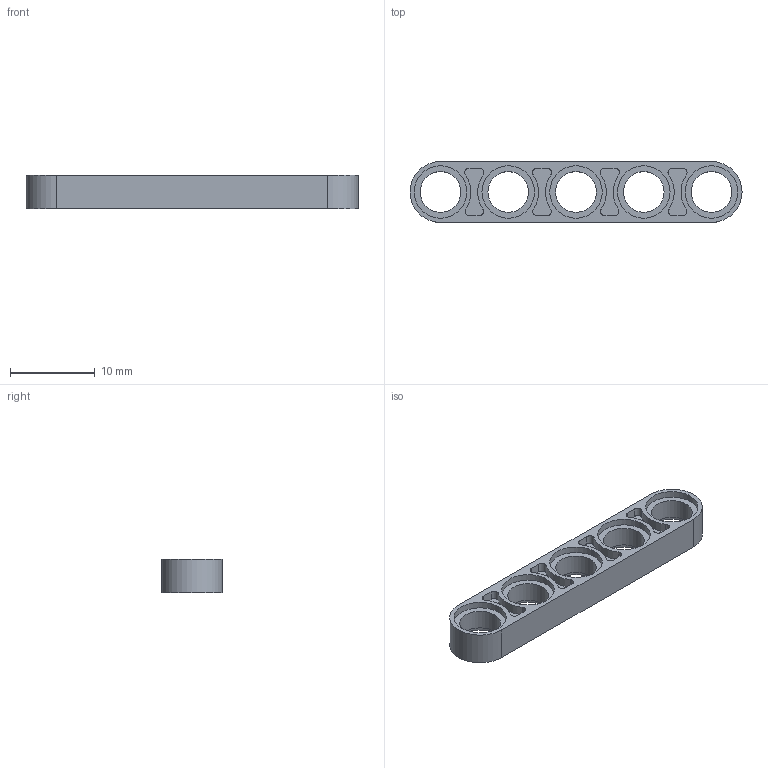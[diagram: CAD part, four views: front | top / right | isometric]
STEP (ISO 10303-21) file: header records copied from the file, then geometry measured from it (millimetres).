
FILE_DESCRIPTION(/* description */ ('Unknown'),/* implementation_level */ '2;1');
FILE_NAME(/* name */ 'Ye_4503425_AVV',/* time_stamp */ '2025-07-22T00:09:18+02:00',/* author */ ('Unknown'),/* organization */ ('Unknown'),/* preprocessor_version */ 'ST-DEVELOPER v19.4',/* originating_system */ 'Solid Edge',/* authorisation */ 'Unknown');
FILE_SCHEMA (('AUTOMOTIVE_DESIGN {1 0 10303 214 3 1 1}'));
Length unit declared in the file: millimetre
Products named in the file (1): Ye_4503425_AVV
Bounding box: 39.2 x 7.2 x 4 mm (x, y, z)
Volume: 555 mm3; surface area: 1179.5 mm2
Topology: 1 solids, 1 shells, 103 faces, 249 edges, 166 vertices
Faces by surface type: cylinder 65, plane 38
Full cylindrical faces by diameter (mm): 4.8 x5, 6.2 x10
Entity records: 3048 total; most frequent: DIRECTION 572, CARTESIAN_POINT 504, ORIENTED_EDGE 468, EDGE_CURVE 234, AXIS2_PLACEMENT_3D 234, VERTEX_POINT 166, EDGE_LOOP 146, FACE_BOUND 146
